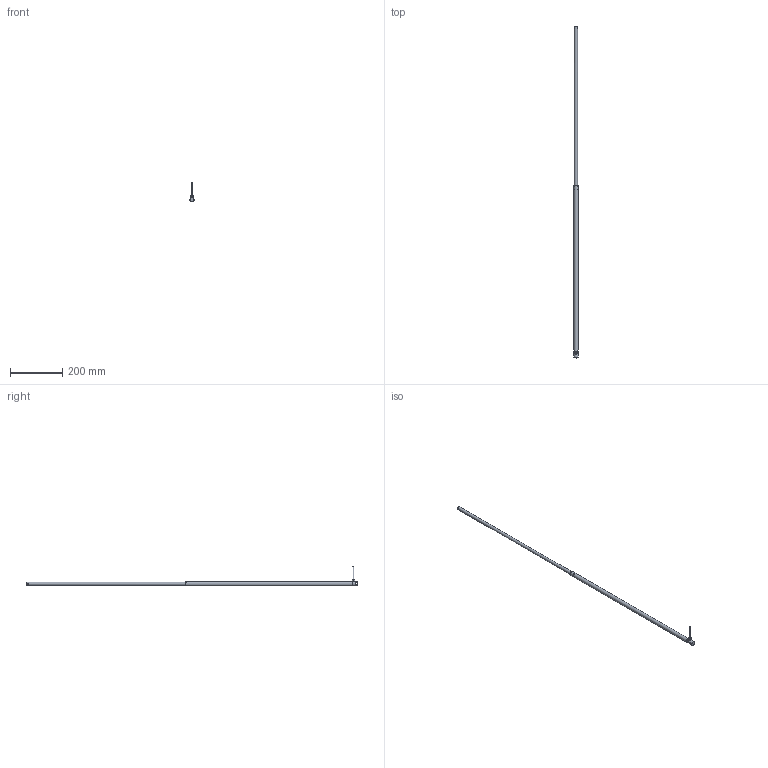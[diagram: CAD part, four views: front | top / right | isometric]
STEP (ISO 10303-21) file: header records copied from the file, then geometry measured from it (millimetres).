
FILE_DESCRIPTION(/* description */ ('Unknown'),/* implementation_level */ '2;1');
FILE_NAME(/* name */ '107.00056 Zylinder CD 1460_ausgefahren',/* time_stamp */ '2018-04-20T13:22:01+02:00',/* author */ ('Unknown'),/* organization */ ('Unknown'),/* preprocessor_version */ 'ST-DEVELOPER v16.7',/* originating_system */ 'DEX',/* authorisation */ $);
FILE_SCHEMA (('AUTOMOTIVE_DESIGN {1 0 10303 214 3 1 1}'));
Length unit declared in the file: millimetre
Products named in the file (9): 107.00056; 121.00006; 142.00021; 125.00021; 115.00001_oa_0; 125.00034; 120.00006; 122.00001; 113.00002_70mm
Assembly tree (8 placements, depth 2):
  107.00056
    121.00006
    142.00021
    125.00021
    115.00001_oa_0
    125.00034
    120.00006
    122.00001
    113.00002_70mm
Bounding box: 16 x 1274 x 76 mm (x, y, z)
Volume: 107446.9 mm3; surface area: 90573.3 mm2
Topology: 7 solids, 7 shells, 80 faces, 173 edges, 112 vertices
Faces by surface type: plane 28, cylinder 27, cone 21, torus 3, sphere 1
Full cylindrical faces by diameter (mm): 2.2 x1, 3 x1, 3.5 x1, 4 x1, 4.1 x1, 4.2 x1, 6 x1, 6.917 x2, 7.763 x2, 8 x4, 8.1 x3, 9 x1, 12 x2, 13.9 x2, 14 x2, 16 x2
Entity records: 2448 total; most frequent: CARTESIAN_POINT 450, DIRECTION 330, ORIENTED_EDGE 210, AXIS2_PLACEMENT_3D 156, FACE_BOUND 151, EDGE_LOOP 149, EDGE_CURVE 105, VERTEX_POINT 94
